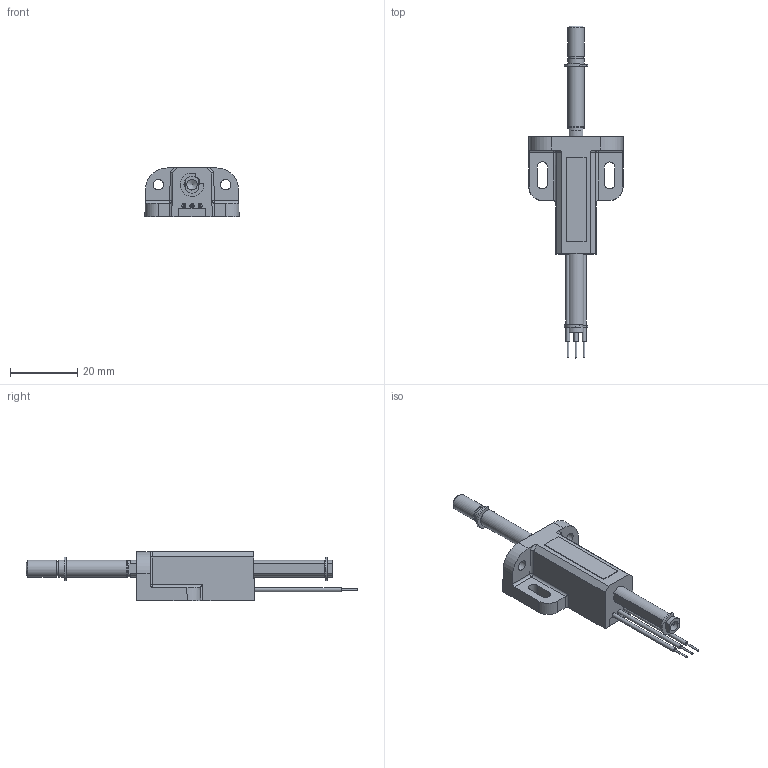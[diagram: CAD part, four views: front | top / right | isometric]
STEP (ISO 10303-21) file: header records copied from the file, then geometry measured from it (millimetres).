
FILE_DESCRIPTION(/* description */ ('Unknown'),/* implementation_level */ '2;1');
FILE_NAME(/* name */ 'RE40LHE2_1T54_-4',/* time_stamp */ '2025-04-08T17:14:33+02:00',/* author */ ('Unknown'),/* organization */ ('Unknown'),/* preprocessor_version */ 'ST-DEVELOPER v19.4',/* originating_system */ 'Solid Edge',/* authorisation */ 'Unknown');
FILE_SCHEMA (('AUTOMOTIVE_DESIGN {1 0 10303 214 3 1 1}'));
Length unit declared in the file: millimetre
Products named in the file (10): RE40LHE2_1T54_-4; CB00790_M; CD00072_F; CG00044_-; CA01008_L; potting3; Fil rouge; Fil vert; CQ00231_-; Fil jaune
Assembly tree (10 placements, depth 2):
  RE40LHE2_1T54_-4
    CB00790_M
    CD00072_F
    CG00044_-
    CA01008_L
    potting3
    Fil rouge
    Fil vert
    CQ00231_-  x2
    Fil jaune
Bounding box: 28 x 98.7 x 14.7 mm (x, y, z)
Volume: 7824 mm3; surface area: 8309.4 mm2
Topology: 10 solids, 10 shells, 333 faces, 845 edges, 534 vertices
Faces by surface type: plane 162, cylinder 122, cone 21, sphere 14, torus 10, bspline 4
Full cylindrical faces by diameter (mm): 0.5 x6, 1.2 x3, 3.1 x2, 3.15 x1, 4 x2, 4.2 x1, 4.9 x1, 5 x4, 5.2 x1, 7 x2
Entity records: 9634 total; most frequent: CARTESIAN_POINT 1712, DIRECTION 1577, ORIENTED_EDGE 1448, EDGE_CURVE 724, AXIS2_PLACEMENT_3D 571, VERTEX_POINT 482, LINE 435, VECTOR 435
